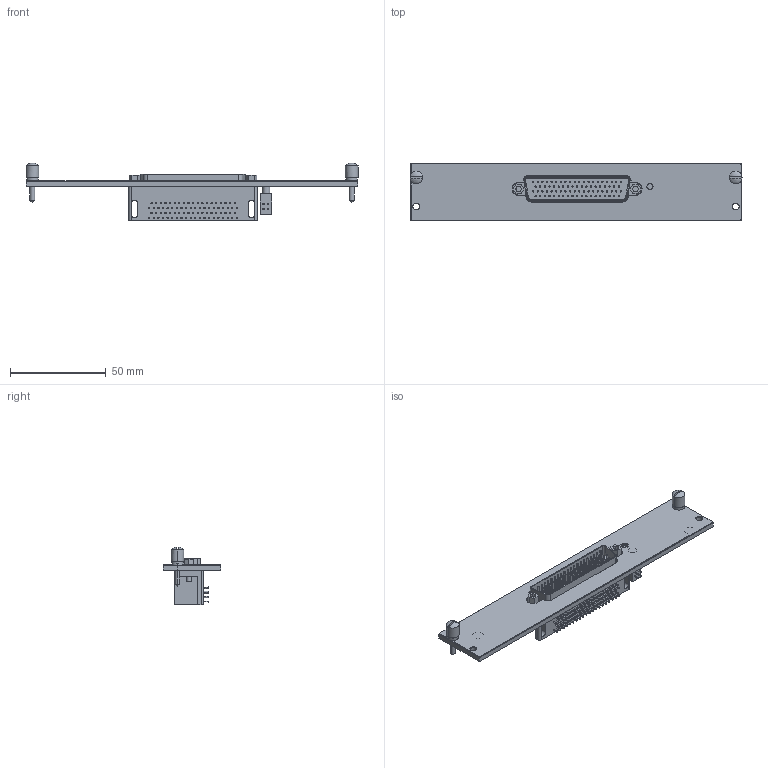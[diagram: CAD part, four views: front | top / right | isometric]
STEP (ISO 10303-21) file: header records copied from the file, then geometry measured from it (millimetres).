
FILE_DESCRIPTION((''),'2;1');
FILE_NAME('CU_SCXI-1167','2009-11-25T',('jjorden'),(''),'PRO/ENGINEER BY PARAMETRIC TECHNOLOGY CORPORATION, 2006080','PRO/ENGINEER BY PARAMETRIC TECHNOLOGY CORPORATION, 2006080','');
FILE_SCHEMA(('CONFIG_CONTROL_DESIGN'));
Length unit declared in the file: inch
Products named in the file (1): CU_SCXI-1167
Bounding box: 173.51 x 30.18 x 30.1 mm (x, y, z)
Volume: 31282.8 mm3; surface area: 19788.6 mm2
Topology: 2 solids, 2 shells, 710 faces, 1548 edges, 1026 vertices
Faces by surface type: cylinder 416, plane 282, cone 8, sphere 4
Entity records: 19858 total; most frequent: DIRECTION 3832, CARTESIAN_POINT 3280, ORIENTED_EDGE 3088, AXIS2_PLACEMENT_3D 1578, EDGE_CURVE 1544, VERTEX_POINT 1026, EDGE_LOOP 910, CIRCLE 868
